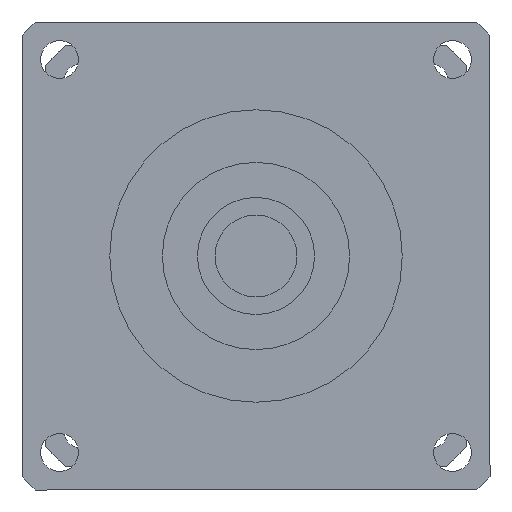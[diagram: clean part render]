
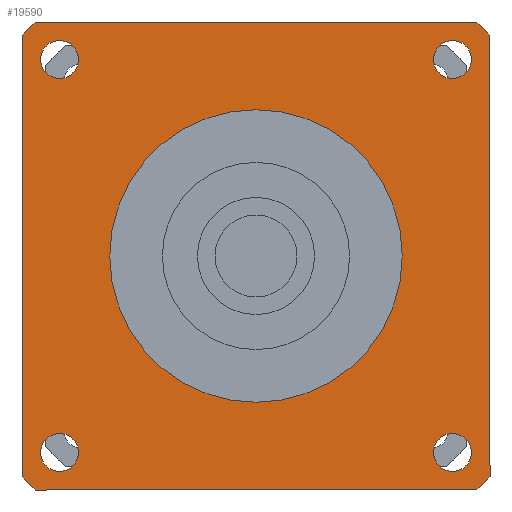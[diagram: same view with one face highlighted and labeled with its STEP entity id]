
A CAD part, left-side view. The second image highlights one B-rep face of the part: STEP entity #19590.
In plain terms, the highlighted planar face has unit normal (-1, 0, 0) as drawn and (0, 0, -1) by its records, which use the part's own axes.
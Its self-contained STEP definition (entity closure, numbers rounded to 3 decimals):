
#15210=CARTESIAN_POINT('',(-37.749,40.,-93.));
#15220=VERTEX_POINT('',#15210);
#15380=CARTESIAN_POINT('',(-40.,37.749,-93.));
#15390=VERTEX_POINT('',#15380);
#15420=CARTESIAN_POINT('',(0.,0.,
-93.));
#15430=DIRECTION('',(0.,0.,1.));
#15440=DIRECTION('',(0.,-1.,0.));
#15450=AXIS2_PLACEMENT_3D('',#15420,#15430,#15440);
#15460=CIRCLE('',#15450,55.);
#15470=EDGE_CURVE('',#15220,#15390,#15460,.T.);
#15700=CARTESIAN_POINT('',(-40.,-37.749,-93.));
#15710=VERTEX_POINT('',#15700);
#15740=CARTESIAN_POINT('',(-40.,40.,-93.));
#15750=DIRECTION('',(0.,-1.,0.));
#15760=VECTOR('',#15750,1000.);
#15770=LINE('',#15740,#15760);
#15780=EDGE_CURVE('',#15390,#15710,#15770,.T.);
#17590=CARTESIAN_POINT('',(37.749,40.,-93.));
#17600=VERTEX_POINT('',#17590);
#17650=CARTESIAN_POINT('',(40.,40.,-93.));
#17660=DIRECTION('',(-1.,0.,0.));
#17670=VECTOR('',#17660,1000.);
#17680=LINE('',#17650,#17670);
#17690=EDGE_CURVE('',#17600,#15220,#17680,.T.);
#17800=CARTESIAN_POINT('',(0.,0.,
-93.));
#17810=DIRECTION('',(0.,0.,1.));
#17820=DIRECTION('',(0.,-1.,0.));
#17830=AXIS2_PLACEMENT_3D('',#17800,#17810,#17820);
#17840=CIRCLE('',#17830,55.);
#17850=CARTESIAN_POINT('',(40.,37.749,-93.));
#17860=VERTEX_POINT('',#17850);
#17870=EDGE_CURVE('',#17860,#17600,#17840,.T.);
#18080=CARTESIAN_POINT('',(40.,-37.749,-93.));
#18090=VERTEX_POINT('',#18080);
#18140=CARTESIAN_POINT('',(40.,-40.,-93.));
#18150=DIRECTION('',(0.,1.,0.));
#18160=VECTOR('',#18150,1000.);
#18170=LINE('',#18140,#18160);
#18180=EDGE_CURVE('',#18090,#17860,#18170,.T.);
#18340=CARTESIAN_POINT('',(-37.749,-40.,-93.));
#18350=VERTEX_POINT('',#18340);
#18380=CARTESIAN_POINT('',(0.,0.,
-93.));
#18390=DIRECTION('',(0.,0.,1.));
#18400=DIRECTION('',(0.,-1.,0.));
#18410=AXIS2_PLACEMENT_3D('',#18380,#18390,#18400);
#18420=CIRCLE('',#18410,55.);
#18430=EDGE_CURVE('',#15710,#18350,#18420,.T.);
#18480=CARTESIAN_POINT('',(-40.,40.,-93.));
#18490=DIRECTION('',(0.,0.,1.));
#18500=DIRECTION('',(-1.,0.,0.));
#18510=AXIS2_PLACEMENT_3D('',#18480,#18490,#18500);
#18520=PLANE('',#18510);
#18530=CARTESIAN_POINT('',(33.588,-33.588,-93.));
#18540=DIRECTION('',(0.,0.,-1.));
#18550=DIRECTION('',(1.,0.,0.));
#18560=AXIS2_PLACEMENT_3D('',#18530,#18540,#18550);
#18570=CIRCLE('',#18560,3.25);
#18580=CARTESIAN_POINT('',(36.838,-33.588,-93.));
#18590=VERTEX_POINT('',#18580);
#18600=CARTESIAN_POINT('',(33.588,-36.838,-93.));
#18610=VERTEX_POINT('',#18600);
#18620=EDGE_CURVE('',#18590,#18610,#18570,.T.);
#18630=ORIENTED_EDGE('',*,*,#18620,.F.);
#18640=CARTESIAN_POINT('',(33.588,-30.338,-93.));
#18650=VERTEX_POINT('',#18640);
#18660=EDGE_CURVE('',#18610,#18650,#18570,.T.);
#18670=ORIENTED_EDGE('',*,*,#18660,.F.);
#18680=EDGE_CURVE('',#18650,#18590,#18570,.T.);
#18690=ORIENTED_EDGE('',*,*,#18680,.F.);
#18700=EDGE_LOOP('',(#18690,#18670,#18630));
#18710=FACE_BOUND('',#18700,.T.);
#18720=CARTESIAN_POINT('',(33.588,33.588,-93.));
#18730=DIRECTION('',(0.,0.,-1.));
#18740=DIRECTION('',(0.,1.,0.));
#18750=AXIS2_PLACEMENT_3D('',#18720,#18730,#18740);
#18760=CIRCLE('',#18750,3.25);
#18770=CARTESIAN_POINT('',(33.588,36.838,-93.));
#18780=VERTEX_POINT('',#18770);
#18790=CARTESIAN_POINT('',(36.838,33.588,-93.));
#18800=VERTEX_POINT('',#18790);
#18810=EDGE_CURVE('',#18780,#18800,#18760,.T.);
#18820=ORIENTED_EDGE('',*,*,#18810,.F.);
#18830=CARTESIAN_POINT('',(30.338,33.588,-93.));
#18840=VERTEX_POINT('',#18830);
#18850=EDGE_CURVE('',#18800,#18840,#18760,.T.);
#18860=ORIENTED_EDGE('',*,*,#18850,.F.);
#18870=EDGE_CURVE('',#18840,#18780,#18760,.T.);
#18880=ORIENTED_EDGE('',*,*,#18870,.F.);
#18890=EDGE_LOOP('',(#18880,#18860,#18820));
#18900=FACE_BOUND('',#18890,.T.);
#18910=CARTESIAN_POINT('',(-33.588,33.588,-93.));
#18920=DIRECTION('',(0.,0.,-1.));
#18930=DIRECTION('',(-1.,0.,0.));
#18940=AXIS2_PLACEMENT_3D('',#18910,#18920,#18930);
#18950=CIRCLE('',#18940,3.25);
#18960=CARTESIAN_POINT('',(-33.588,36.838,-93.));
#18970=VERTEX_POINT('',#18960);
#18980=CARTESIAN_POINT('',(-33.588,30.338,-93.));
#18990=VERTEX_POINT('',#18980);
#19000=EDGE_CURVE('',#18970,#18990,#18950,.T.);
#19010=ORIENTED_EDGE('',*,*,#19000,.F.);
#19020=EDGE_CURVE('',#18990,#18970,#18950,.T.);
#19030=ORIENTED_EDGE('',*,*,#19020,.F.);
#19040=EDGE_LOOP('',(#19030,#19010));
#19050=FACE_BOUND('',#19040,.T.);
#19060=CARTESIAN_POINT('',(-33.588,-33.588,-93.));
#19070=DIRECTION('',(0.,0.,-1.));
#19080=DIRECTION('',(0.,-1.,0.));
#19090=AXIS2_PLACEMENT_3D('',#19060,#19070,#19080);
#19100=CIRCLE('',#19090,3.25);
#19110=CARTESIAN_POINT('',(-36.838,-33.588,-93.));
#19120=VERTEX_POINT('',#19110);
#19130=CARTESIAN_POINT('',(-30.338,-33.588,-93.));
#19140=VERTEX_POINT('',#19130);
#19150=EDGE_CURVE('',#19120,#19140,#19100,.T.);
#19160=ORIENTED_EDGE('',*,*,#19150,.F.);
#19170=EDGE_CURVE('',#19140,#19120,#19100,.T.);
#19180=ORIENTED_EDGE('',*,*,#19170,.F.);
#19190=EDGE_LOOP('',(#19180,#19160));
#19200=FACE_BOUND('',#19190,.T.);
#19210=ORIENTED_EDGE('',*,*,#18430,.F.);
#19220=CARTESIAN_POINT('',(-40.,-40.,-93.));
#19230=DIRECTION('',(1.,0.,0.));
#19240=VECTOR('',#19230,1000.);
#19250=LINE('',#19220,#19240);
#19260=CARTESIAN_POINT('',(37.749,-40.,-93.));
#19270=VERTEX_POINT('',#19260);
#19280=EDGE_CURVE('',#18350,#19270,#19250,.T.);
#19290=ORIENTED_EDGE('',*,*,#19280,.F.);
#19300=CARTESIAN_POINT('',(0.,0.,
-93.));
#19310=DIRECTION('',(0.,0.,1.));
#19320=DIRECTION('',(0.,-1.,0.));
#19330=AXIS2_PLACEMENT_3D('',#19300,#19310,#19320);
#19340=CIRCLE('',#19330,55.);
#19350=EDGE_CURVE('',#19270,#18090,#19340,.T.);
#19360=ORIENTED_EDGE('',*,*,#19350,.F.);
#19370=ORIENTED_EDGE('',*,*,#18180,.F.);
#19380=ORIENTED_EDGE('',*,*,#17870,.F.);
#19390=ORIENTED_EDGE('',*,*,#17690,.F.);
#19400=ORIENTED_EDGE('',*,*,#15470,.F.);
#19410=ORIENTED_EDGE('',*,*,#15780,.F.);
#19420=EDGE_LOOP('',(#19410,#19400,#19390,#19380,#19370,#19360,#19290,
#19210));
#19430=FACE_OUTER_BOUND('',#19420,.T.);
#19440=CARTESIAN_POINT('',(0.,0.,
-93.));
#19450=DIRECTION('',(0.,0.,1.));
#19460=DIRECTION('',(0.,-1.,0.));
#19470=AXIS2_PLACEMENT_3D('',#19440,#19450,#19460);
#19480=CIRCLE('',#19470,25.);
#19490=CARTESIAN_POINT('',(-25.,0.,-93.));
#19500=VERTEX_POINT('',#19490);
#19510=CARTESIAN_POINT('',(25.,0.,-93.));
#19520=VERTEX_POINT('',#19510);
#19530=EDGE_CURVE('',#19500,#19520,#19480,.T.);
#19540=ORIENTED_EDGE('',*,*,#19530,.T.);
#19550=EDGE_CURVE('',#19520,#19500,#19480,.T.);
#19560=ORIENTED_EDGE('',*,*,#19550,.T.);
#19570=EDGE_LOOP('',(#19560,#19540));
#19580=FACE_BOUND('',#19570,.T.);
#19590=ADVANCED_FACE('',(#18710,#18900,#19050,#19200,#19430,#19580),
#18520,.F.);
